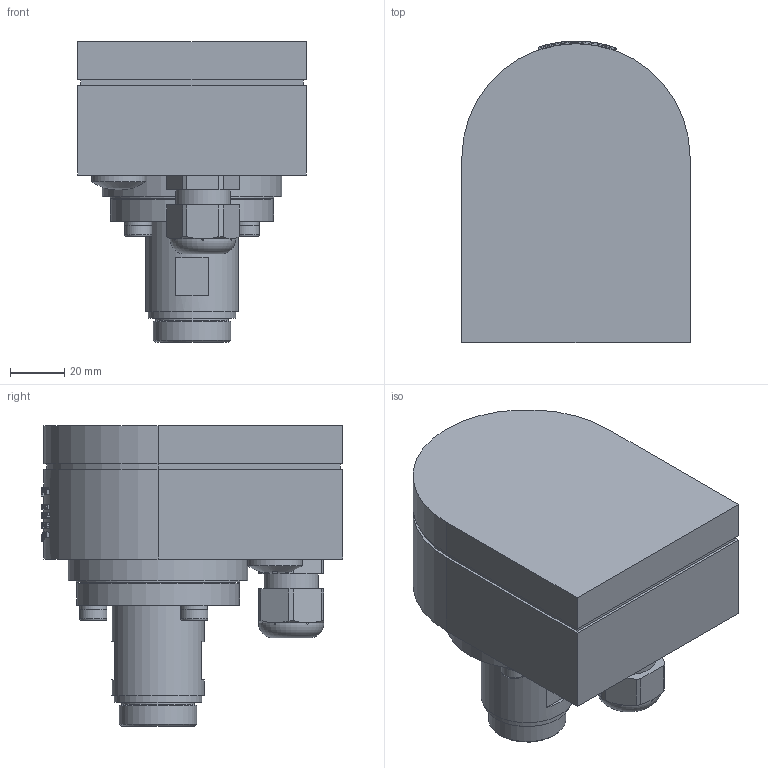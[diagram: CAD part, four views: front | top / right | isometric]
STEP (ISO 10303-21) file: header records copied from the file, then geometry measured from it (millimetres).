
FILE_DESCRIPTION(/* description */ (''),/* implementation_level */ '2;1');
FILE_NAME(/* name */ 'P:\ILC\LC-H-MA\LC-H-MA.stp',/* time_stamp */ '2020-06-05T12:45:59+02:00',/* author */ ('neufeld'),/* organization */ (''),/* preprocessor_version */ 'ST-DEVELOPER v17',/* originating_system */ 'Autodesk Inventor 2019',/* authorisation */ '');
FILE_SCHEMA (('AUTOMOTIVE_DESIGN { 1 0 10303 214 3 1 1 }'));
Products named in the file (1): LC-H-MA_AG-Kunde
Bounding box: 84 x 111 x 110.5 mm (x, y, z)
Volume: 512512.8 mm3; surface area: 50082.2 mm2
Topology: 1 solids, 2 shells, 1204 faces, 3278 edges, 2199 vertices
Faces by surface type: plane 712, bspline 348, cylinder 125, cone 12, torus 7
Full cylindrical faces by diameter (mm): 6 x3, 6.7 x3, 10 x3, 10.9 x1, 13.5 x1, 20 x2, 22.2 x1, 26.7 x1, 28.1 x1, 28.45 x1, 28.81 x1, 32.15 x1, 34 x1, 36.8 x1, 55.551 x1, 60 x1, 66 x1
Entity records: 49798 total; most frequent: CARTESIAN_POINT 20776, ORIENTED_EDGE 6534, DIRECTION 5082, EDGE_CURVE 3267, VERTEX_POINT 2183, AXIS2_PLACEMENT_3D 1751, LINE 1580, VECTOR 1580
